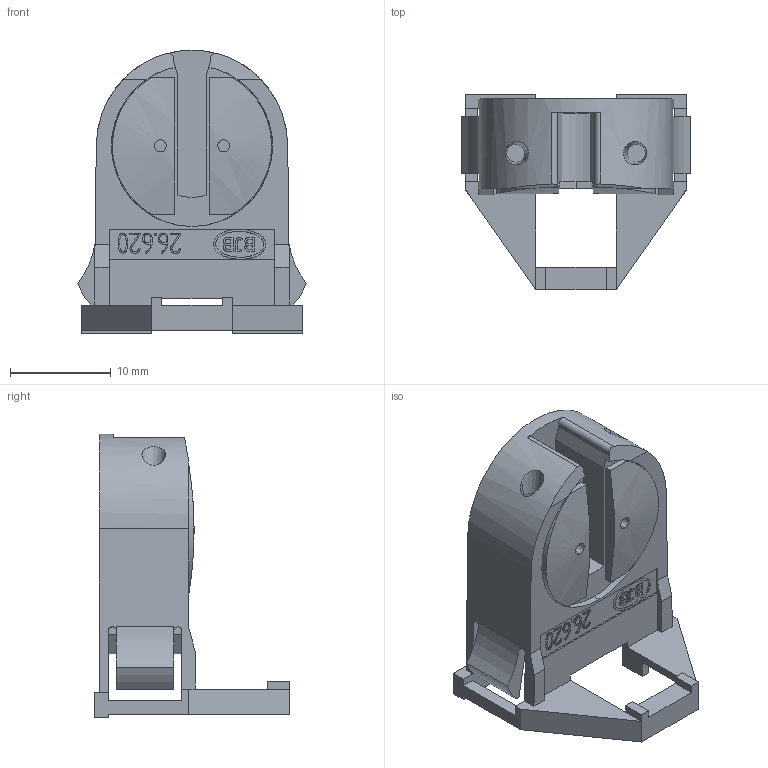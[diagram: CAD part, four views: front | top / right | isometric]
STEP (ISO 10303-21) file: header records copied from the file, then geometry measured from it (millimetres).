
FILE_DESCRIPTION((' '),'1');
FILE_NAME('00A-20W-0A.stp','2006-09-01 T',(' '),(' '),'STEP Interface v1.0 by CT CoreTechnologie','3D_Evolution v1.0 by CT CoreTechnologie',' ');
FILE_SCHEMA(('CONFIG_CONTROL_DESIGN'));
Length unit declared in the file: millimetre
Products named in the file (1): 00A-20W-0A
Bounding box: 22.69 x 19.4 x 28.15 mm (x, y, z)
Volume: 3045.2 mm3; surface area: 3059.3 mm2
Topology: 1 solids, 1 shells, 314 faces, 867 edges, 574 vertices
Faces by surface type: plane 204, cylinder 72, bspline 34, cone 4
Entity records: 13790 total; most frequent: CARTESIAN_POINT 3232, ORIENTED_EDGE 1734, DIRECTION 1577, EDGE_CURVE 867, VECTOR 627, LINE 627, VERTEX_POINT 574, AXIS2_PLACEMENT_3D 475
